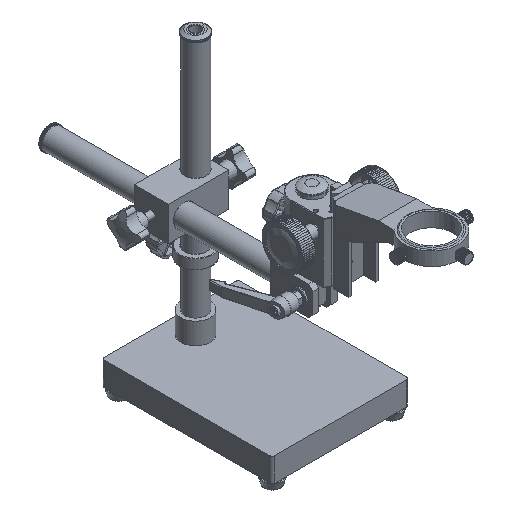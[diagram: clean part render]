
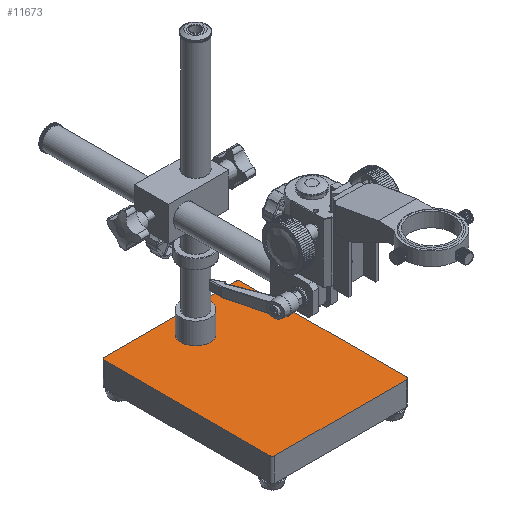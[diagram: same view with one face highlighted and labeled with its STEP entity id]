
A CAD part, isometric view. The second image highlights one B-rep face of the part: STEP entity #11673.
In plain terms, the highlighted planar face has unit normal (0, 0, 1).
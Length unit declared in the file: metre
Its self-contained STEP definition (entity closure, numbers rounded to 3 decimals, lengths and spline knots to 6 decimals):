
#11673=ADVANCED_FACE('3:2310',(#34537,#34538),#34539,.T.);
#12103=EDGE_CURVE('3:3444',#35204,#35205,#35206,.T.);
#12153=EDGE_CURVE('3:3411',#35273,#35259,#35276,.T.);
#12325=EDGE_CURVE('3:3459',#35511,#35511,#35512,.T.);
#12391=EDGE_CURVE('3:3453',#35259,#35600,#35601,.T.);
#12435=EDGE_CURVE('3:3450',#35654,#35273,#35655,.T.);
#12437=EDGE_CURVE('3:3420',#35657,#35654,#35658,.T.);
#12439=EDGE_CURVE('3:3447',#35660,#35657,#35661,.T.);
#12441=EDGE_CURVE('3:3429',#35205,#35660,#35663,.T.);
#12443=EDGE_CURVE('3:3435',#35600,#35204,#35665,.T.);
#34537=FACE_OUTER_BOUND('',#66138,.T.);
#34538=FACE_BOUND('',#66139,.T.);
#34539=PLANE('',#66140);
#35204=VERTEX_POINT('',#67144);
#35205=VERTEX_POINT('',#67145);
#35206=CIRCLE('',#67146,0.003);
#35259=VERTEX_POINT('',#67227);
#35273=VERTEX_POINT('',#67251);
#35276=LINE('',#67256,#67257);
#35511=VERTEX_POINT('',#67675);
#35512=CIRCLE('',#67676,0.005);
#35600=VERTEX_POINT('',#67816);
#35601=CIRCLE('',#67817,0.003);
#35654=VERTEX_POINT('',#67906);
#35655=CIRCLE('',#67907,0.003);
#35657=VERTEX_POINT('',#67910);
#35658=LINE('',#67911,#67912);
#35660=VERTEX_POINT('',#67915);
#35661=CIRCLE('',#67916,0.003);
#35663=LINE('',#67919,#67920);
#35665=LINE('',#67923,#67924);
#66138=EDGE_LOOP('',(#166322,#166323,#166324,#166325,#166326,#166327,#166328,#166329));
#66139=EDGE_LOOP('',(#166330));
#66140=AXIS2_PLACEMENT_3D('',#166331,#166332,#166333);
#67144=CARTESIAN_POINT('',(-0.08,0.097,0.028));
#67145=CARTESIAN_POINT('',(-0.077,0.1,0.028));
#67146=AXIS2_PLACEMENT_3D('',#167152,#167153,#167154);
#67227=CARTESIAN_POINT('',(-0.077,-0.1,0.028));
#67251=CARTESIAN_POINT('',(0.077,-0.1,0.028));
#67256=CARTESIAN_POINT('',(0.08,-0.1,0.028));
#67257=VECTOR('',#167197,1.0);
#67675=CARTESIAN_POINT('',(0.005,0.07,0.028));
#67676=AXIS2_PLACEMENT_3D('',#167323,#167324,#167325);
#67816=CARTESIAN_POINT('',(-0.08,-0.097,0.028));
#67817=AXIS2_PLACEMENT_3D('',#167384,#167385,#167386);
#67906=CARTESIAN_POINT('',(0.08,-0.097,0.028));
#67907=AXIS2_PLACEMENT_3D('',#167422,#167423,#167424);
#67910=CARTESIAN_POINT('',(0.08,0.097,0.028));
#67911=CARTESIAN_POINT('',(0.08,0.1,0.028));
#67912=VECTOR('',#167425,1.0);
#67915=CARTESIAN_POINT('',(0.077,0.1,0.028));
#67916=AXIS2_PLACEMENT_3D('',#167426,#167427,#167428);
#67919=CARTESIAN_POINT('',(-0.08,0.1,0.028));
#67920=VECTOR('',#167429,1.0);
#67923=CARTESIAN_POINT('',(-0.08,-0.1,0.028));
#67924=VECTOR('',#167430,1.0);
#166322=ORIENTED_EDGE('',*,*,#12391,.F.);
#166323=ORIENTED_EDGE('',*,*,#12153,.F.);
#166324=ORIENTED_EDGE('',*,*,#12435,.F.);
#166325=ORIENTED_EDGE('',*,*,#12437,.F.);
#166326=ORIENTED_EDGE('',*,*,#12439,.F.);
#166327=ORIENTED_EDGE('',*,*,#12441,.F.);
#166328=ORIENTED_EDGE('',*,*,#12103,.F.);
#166329=ORIENTED_EDGE('',*,*,#12443,.F.);
#166330=ORIENTED_EDGE('',*,*,#12325,.F.);
#166331=CARTESIAN_POINT('',(0.0,0.0,0.028));
#166332=DIRECTION('',(0.0,0.0,1.0));
#166333=DIRECTION('',(1.0,0.0,0.0));
#167152=CARTESIAN_POINT('',(-0.077,0.097,0.028));
#167153=DIRECTION('',(0.0,0.0,-1.0));
#167154=DIRECTION('',(-0.707,0.707,0.0));
#167197=DIRECTION('',(-1.0,0.0,0.0));
#167323=CARTESIAN_POINT('',(0.,0.07,0.028));
#167324=DIRECTION('',(0.0,0.0,1.0));
#167325=DIRECTION('',(1.0,0.0,-0.0));
#167384=CARTESIAN_POINT('',(-0.077,-0.097,0.028));
#167385=DIRECTION('',(-0.0,0.0,-1.0));
#167386=DIRECTION('',(-0.707,-0.707,0.0));
#167422=CARTESIAN_POINT('',(0.077,-0.097,0.028));
#167423=DIRECTION('',(0.0,-0.0,-1.0));
#167424=DIRECTION('',(0.707,-0.707,0.0));
#167425=DIRECTION('',(0.0,-1.0,0.0));
#167426=CARTESIAN_POINT('',(0.077,0.097,0.028));
#167427=DIRECTION('',(0.0,0.0,-1.0));
#167428=DIRECTION('',(0.707,0.707,0.0));
#167429=DIRECTION('',(1.0,0.0,0.0));
#167430=DIRECTION('',(0.0,1.0,0.0));
